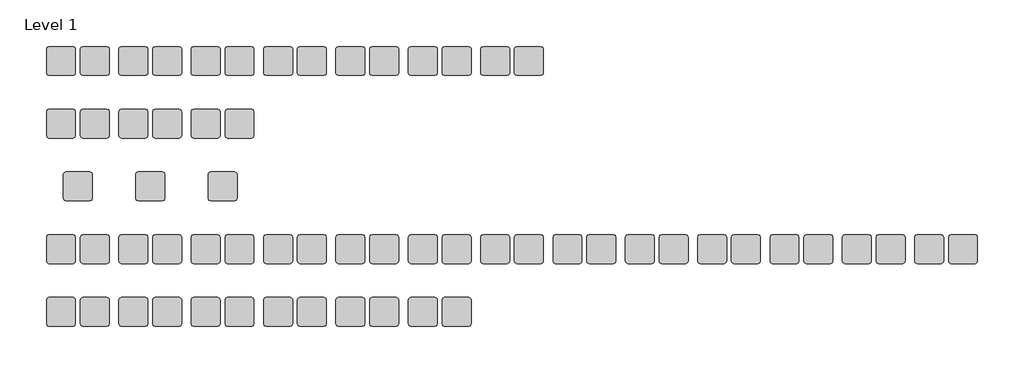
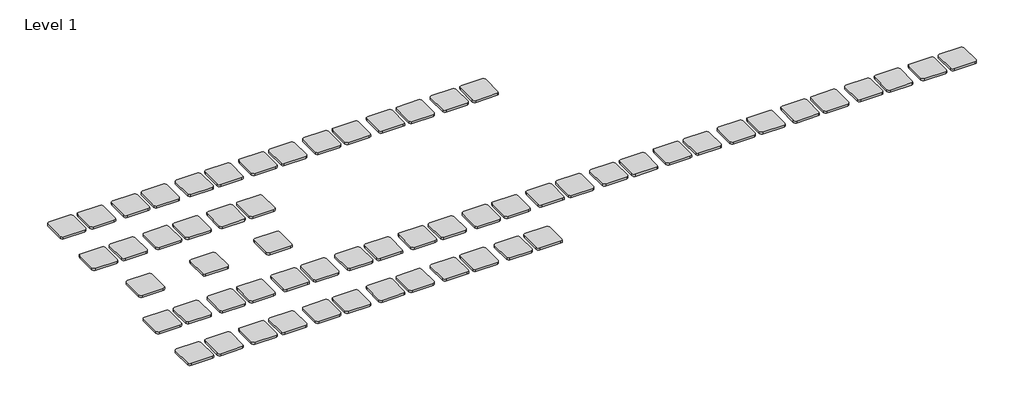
# One storey: 61 proxies.
"""IFC4 building model written with IfcOpenShell, lengths in millimetres."""

from ifc_helpers import new_model, si_unit, origin, place, context, project, spatial, transform, mapped, element, save
from components import finish_host1_finish_host_5be427ba, finish_host10_finish_host_ea2229f9, finish_host11_finish_host_68f65390, finish_host12_finish_host_615aa6c3, finish_host13_finish_host_e68ba729, finish_host14_finish_host_031a5872, finish_host15_finish_host_5658b52d, finish_host16_finish_host_4655bde0, finish_host17_finish_host_55fa66fa, finish_host18_finish_host_5ec7e49b, finish_host19_finish_host_4c318566, finish_host2_finish_host_1fd41e81, finish_host20_finish_host_48f22597, finish_host21_finish_host_1a1d4db5, finish_host22_finish_host_b5e77172, finish_host23_finish_host_aa634049, finish_host24_finish_host_a67df22e, finish_host25_finish_host_899a1b6d, finish_host26_finish_host_602a51fa, finish_host27_finish_host_7d3b422b, finish_host28_finish_host_be67d0bb, finish_host29_finish_host_b7dff220, finish_host3_finish_host_8b5ddf8c, finish_host30_finish_host_64383cae, finish_host31_finish_host_b5f629f3, finish_host32_finish_host_480f6b44, finish_host33_finish_host_6aa41282, finish_host34_finish_host_895b87cc, finish_host35_finish_host_c54f2c3e, finish_host36_finish_host_4d6229b8, finish_host37_finish_host_7318c595, finish_host38_finish_host_308a263b, finish_host39_finish_host_09242d3a, finish_host4_finish_host_29c3d501, finish_host40_finish_host_98985327, finish_host41_finish_host_d7d51719, finish_host42_finish_host_8a8fd854, finish_host43_finish_host_41cf50c6, finish_host44_finish_host_0fc50547, finish_host45_finish_host_f44af415, finish_host46_finish_host_f0582e82, finish_host47_finish_host_d2d6f0f1, finish_host48_finish_host_e7a341e6, finish_host49_finish_host_73e4c052, finish_host5_finish_host_da0f1f4f, finish_host50_finish_host_a668aa0e, finish_host51_finish_host_c17eafe4, finish_host52_finish_host_f7eaa4a8, finish_host53_finish_host_fe3a5eb9, finish_host54_finish_host_1c773aff, finish_host55_finish_host_c2976ace, finish_host56_finish_host_a154b918, finish_host57_finish_host_ed8a52d6, finish_host58_finish_host_a024fdb9, finish_host59_finish_host_d261e86d, finish_host6_finish_host_2f1395f0, finish_host60_finish_host_f87967e8, finish_host61_finish_host_1c5bda7f, finish_host7_finish_host_0db96256, finish_host8_finish_host_85bd6bc4, finish_host9_finish_host_b86020ca

model = new_model("IFC4")

# Units and contexts
model_context = context("Model", 3, world=origin())
ifc_project = project(units=[si_unit("LENGTHUNIT", "METRE", prefix="MILLI")], contexts=[model_context])

# Site, building, storey
site = spatial("IfcSite", under=ifc_project)
building = spatial("IfcBuilding", under=site)
storey = spatial("IfcBuildingStorey", under=building, Name="Level 1", Elevation=0.0)

# Proxies
placement = place(None, origin())
finish_host1_finish_host_shape = finish_host1_finish_host_5be427ba(model_context)
element("IfcBuildingElementProxy", 1, Name="Finish Host1 : Finish Host", ObjectType="Finish Host1 : Finish Host", at=placement, inside=storey, context=model_context, shape_type="MappedRepresentation", body=[
    mapped(finish_host1_finish_host_shape, transform((0.0, 0.0, 0.0), x_axis=(1.0, 0.0, 0.0), y_axis=(0.0, 1.0, 0.0), z_axis=(0.0, 0.0, 1.0))),
])
finish_host10_finish_host_shape = finish_host10_finish_host_ea2229f9(model_context)
element("IfcBuildingElementProxy", 2, Name="Finish Host10 : Finish Host", ObjectType="Finish Host10 : Finish Host", at=placement, inside=storey, context=model_context, shape_type="MappedRepresentation", body=[
    mapped(finish_host10_finish_host_shape, transform((0.0, 0.0, 0.0), x_axis=(1.0, 0.0, 0.0), y_axis=(0.0, 1.0, 0.0), z_axis=(0.0, 0.0, 1.0))),
])
finish_host11_finish_host_shape = finish_host11_finish_host_68f65390(model_context)
element("IfcBuildingElementProxy", 3, Name="Finish Host11 : Finish Host", ObjectType="Finish Host11 : Finish Host", at=placement, inside=storey, context=model_context, shape_type="MappedRepresentation", body=[
    mapped(finish_host11_finish_host_shape, transform((0.0, 0.0, 0.0), x_axis=(1.0, 0.0, 0.0), y_axis=(0.0, 1.0, 0.0), z_axis=(0.0, 0.0, 1.0))),
])
finish_host12_finish_host_shape = finish_host12_finish_host_615aa6c3(model_context)
element("IfcBuildingElementProxy", 4, Name="Finish Host12 : Finish Host", ObjectType="Finish Host12 : Finish Host", at=placement, inside=storey, context=model_context, shape_type="MappedRepresentation", body=[
    mapped(finish_host12_finish_host_shape, transform((0.0, 0.0, 0.0), x_axis=(1.0, 0.0, 0.0), y_axis=(0.0, 1.0, 0.0), z_axis=(0.0, 0.0, 1.0))),
])
finish_host13_finish_host_shape = finish_host13_finish_host_e68ba729(model_context)
element("IfcBuildingElementProxy", 5, Name="Finish Host13 : Finish Host", ObjectType="Finish Host13 : Finish Host", at=placement, inside=storey, context=model_context, shape_type="MappedRepresentation", body=[
    mapped(finish_host13_finish_host_shape, transform((0.0, 0.0, 0.0), x_axis=(1.0, 0.0, 0.0), y_axis=(0.0, 1.0, 0.0), z_axis=(0.0, 0.0, 1.0))),
])
finish_host14_finish_host_shape = finish_host14_finish_host_031a5872(model_context)
element("IfcBuildingElementProxy", 6, Name="Finish Host14 : Finish Host", ObjectType="Finish Host14 : Finish Host", at=placement, inside=storey, context=model_context, shape_type="MappedRepresentation", body=[
    mapped(finish_host14_finish_host_shape, transform((0.0, 0.0, 0.0), x_axis=(1.0, 0.0, 0.0), y_axis=(0.0, 1.0, 0.0), z_axis=(0.0, 0.0, 1.0))),
])
finish_host15_finish_host_shape = finish_host15_finish_host_5658b52d(model_context)
element("IfcBuildingElementProxy", 7, Name="Finish Host15 : Finish Host", ObjectType="Finish Host15 : Finish Host", at=placement, inside=storey, context=model_context, shape_type="MappedRepresentation", body=[
    mapped(finish_host15_finish_host_shape, transform((0.0, 0.0, 0.0), x_axis=(1.0, 0.0, 0.0), y_axis=(0.0, 1.0, 0.0), z_axis=(0.0, 0.0, 1.0))),
])
finish_host16_finish_host_shape = finish_host16_finish_host_4655bde0(model_context)
element("IfcBuildingElementProxy", 8, Name="Finish Host16 : Finish Host", ObjectType="Finish Host16 : Finish Host", at=placement, inside=storey, context=model_context, shape_type="MappedRepresentation", body=[
    mapped(finish_host16_finish_host_shape, transform((0.0, 0.0, 0.0), x_axis=(1.0, 0.0, 0.0), y_axis=(0.0, 1.0, 0.0), z_axis=(0.0, 0.0, 1.0))),
])
finish_host17_finish_host_shape = finish_host17_finish_host_55fa66fa(model_context)
element("IfcBuildingElementProxy", 9, Name="Finish Host17 : Finish Host", ObjectType="Finish Host17 : Finish Host", at=placement, inside=storey, context=model_context, shape_type="MappedRepresentation", body=[
    mapped(finish_host17_finish_host_shape, transform((0.0, 0.0, 0.0), x_axis=(1.0, 0.0, 0.0), y_axis=(0.0, 1.0, 0.0), z_axis=(0.0, 0.0, 1.0))),
])
finish_host18_finish_host_shape = finish_host18_finish_host_5ec7e49b(model_context)
element("IfcBuildingElementProxy", 10, Name="Finish Host18 : Finish Host", ObjectType="Finish Host18 : Finish Host", at=placement, inside=storey, context=model_context, shape_type="MappedRepresentation", body=[
    mapped(finish_host18_finish_host_shape, transform((0.0, 0.0, 0.0), x_axis=(1.0, 0.0, 0.0), y_axis=(0.0, 1.0, 0.0), z_axis=(0.0, 0.0, 1.0))),
])
finish_host19_finish_host_shape = finish_host19_finish_host_4c318566(model_context)
element("IfcBuildingElementProxy", 11, Name="Finish Host19 : Finish Host", ObjectType="Finish Host19 : Finish Host", at=placement, inside=storey, context=model_context, shape_type="MappedRepresentation", body=[
    mapped(finish_host19_finish_host_shape, transform((0.0, 0.0, 0.0), x_axis=(1.0, 0.0, 0.0), y_axis=(0.0, 1.0, 0.0), z_axis=(0.0, 0.0, 1.0))),
])
finish_host2_finish_host_shape = finish_host2_finish_host_1fd41e81(model_context)
element("IfcBuildingElementProxy", 12, Name="Finish Host2 : Finish Host", ObjectType="Finish Host2 : Finish Host", at=placement, inside=storey, context=model_context, shape_type="MappedRepresentation", body=[
    mapped(finish_host2_finish_host_shape, transform((0.0, 0.0, 0.0), x_axis=(1.0, 0.0, 0.0), y_axis=(0.0, 1.0, 0.0), z_axis=(0.0, 0.0, 1.0))),
])
finish_host20_finish_host_shape = finish_host20_finish_host_48f22597(model_context)
element("IfcBuildingElementProxy", 13, Name="Finish Host20 : Finish Host", ObjectType="Finish Host20 : Finish Host", at=placement, inside=storey, context=model_context, shape_type="MappedRepresentation", body=[
    mapped(finish_host20_finish_host_shape, transform((0.0, 0.0, 0.0), x_axis=(1.0, 0.0, 0.0), y_axis=(0.0, 1.0, 0.0), z_axis=(0.0, 0.0, 1.0))),
])
finish_host21_finish_host_shape = finish_host21_finish_host_1a1d4db5(model_context)
element("IfcBuildingElementProxy", 14, Name="Finish Host21 : Finish Host", ObjectType="Finish Host21 : Finish Host", at=placement, inside=storey, context=model_context, shape_type="MappedRepresentation", body=[
    mapped(finish_host21_finish_host_shape, transform((0.0, 0.0, 0.0), x_axis=(1.0, 0.0, 0.0), y_axis=(0.0, 1.0, 0.0), z_axis=(0.0, 0.0, 1.0))),
])
finish_host22_finish_host_shape = finish_host22_finish_host_b5e77172(model_context)
element("IfcBuildingElementProxy", 15, Name="Finish Host22 : Finish Host", ObjectType="Finish Host22 : Finish Host", at=placement, inside=storey, context=model_context, shape_type="MappedRepresentation", body=[
    mapped(finish_host22_finish_host_shape, transform((0.0, 0.0, 0.0), x_axis=(1.0, 0.0, 0.0), y_axis=(0.0, 1.0, 0.0), z_axis=(0.0, 0.0, 1.0))),
])
finish_host23_finish_host_shape = finish_host23_finish_host_aa634049(model_context)
element("IfcBuildingElementProxy", 16, Name="Finish Host23 : Finish Host", ObjectType="Finish Host23 : Finish Host", at=placement, inside=storey, context=model_context, shape_type="MappedRepresentation", body=[
    mapped(finish_host23_finish_host_shape, transform((0.0, 0.0, 0.0), x_axis=(1.0, 0.0, 0.0), y_axis=(0.0, 1.0, 0.0), z_axis=(0.0, 0.0, 1.0))),
])
finish_host24_finish_host_shape = finish_host24_finish_host_a67df22e(model_context)
element("IfcBuildingElementProxy", 17, Name="Finish Host24 : Finish Host", ObjectType="Finish Host24 : Finish Host", at=placement, inside=storey, context=model_context, shape_type="MappedRepresentation", body=[
    mapped(finish_host24_finish_host_shape, transform((0.0, 0.0, 0.0), x_axis=(1.0, 0.0, 0.0), y_axis=(0.0, 1.0, 0.0), z_axis=(0.0, 0.0, 1.0))),
])
finish_host25_finish_host_shape = finish_host25_finish_host_899a1b6d(model_context)
element("IfcBuildingElementProxy", 18, Name="Finish Host25 : Finish Host", ObjectType="Finish Host25 : Finish Host", at=placement, inside=storey, context=model_context, shape_type="MappedRepresentation", body=[
    mapped(finish_host25_finish_host_shape, transform((0.0, 0.0, 0.0), x_axis=(1.0, 0.0, 0.0), y_axis=(0.0, 1.0, 0.0), z_axis=(0.0, 0.0, 1.0))),
])
finish_host26_finish_host_shape = finish_host26_finish_host_602a51fa(model_context)
element("IfcBuildingElementProxy", 19, Name="Finish Host26 : Finish Host", ObjectType="Finish Host26 : Finish Host", at=placement, inside=storey, context=model_context, shape_type="MappedRepresentation", body=[
    mapped(finish_host26_finish_host_shape, transform((0.0, 0.0, 0.0), x_axis=(1.0, 0.0, 0.0), y_axis=(0.0, 1.0, 0.0), z_axis=(0.0, 0.0, 1.0))),
])
finish_host27_finish_host_shape = finish_host27_finish_host_7d3b422b(model_context)
element("IfcBuildingElementProxy", 20, Name="Finish Host27 : Finish Host", ObjectType="Finish Host27 : Finish Host", at=placement, inside=storey, context=model_context, shape_type="MappedRepresentation", body=[
    mapped(finish_host27_finish_host_shape, transform((0.0, 0.0, 0.0), x_axis=(1.0, 0.0, 0.0), y_axis=(0.0, 1.0, 0.0), z_axis=(0.0, 0.0, 1.0))),
])
finish_host28_finish_host_shape = finish_host28_finish_host_be67d0bb(model_context)
element("IfcBuildingElementProxy", 21, Name="Finish Host28 : Finish Host", ObjectType="Finish Host28 : Finish Host", at=placement, inside=storey, context=model_context, shape_type="MappedRepresentation", body=[
    mapped(finish_host28_finish_host_shape, transform((0.0, 0.0, 0.0), x_axis=(1.0, 0.0, 0.0), y_axis=(0.0, 1.0, 0.0), z_axis=(0.0, 0.0, 1.0))),
])
finish_host29_finish_host_shape = finish_host29_finish_host_b7dff220(model_context)
element("IfcBuildingElementProxy", 22, Name="Finish Host29 : Finish Host", ObjectType="Finish Host29 : Finish Host", at=placement, inside=storey, context=model_context, shape_type="MappedRepresentation", body=[
    mapped(finish_host29_finish_host_shape, transform((0.0, 0.0, 0.0), x_axis=(1.0, 0.0, 0.0), y_axis=(0.0, 1.0, 0.0), z_axis=(0.0, 0.0, 1.0))),
])
finish_host3_finish_host_shape = finish_host3_finish_host_8b5ddf8c(model_context)
element("IfcBuildingElementProxy", 23, Name="Finish Host3 : Finish Host", ObjectType="Finish Host3 : Finish Host", at=placement, inside=storey, context=model_context, shape_type="MappedRepresentation", body=[
    mapped(finish_host3_finish_host_shape, transform((0.0, 0.0, 0.0), x_axis=(1.0, 0.0, 0.0), y_axis=(0.0, 1.0, 0.0), z_axis=(0.0, 0.0, 1.0))),
])
finish_host30_finish_host_shape = finish_host30_finish_host_64383cae(model_context)
element("IfcBuildingElementProxy", 24, Name="Finish Host30 : Finish Host", ObjectType="Finish Host30 : Finish Host", at=placement, inside=storey, context=model_context, shape_type="MappedRepresentation", body=[
    mapped(finish_host30_finish_host_shape, transform((0.0, 0.0, 0.0), x_axis=(1.0, 0.0, 0.0), y_axis=(0.0, 1.0, 0.0), z_axis=(0.0, 0.0, 1.0))),
])
finish_host31_finish_host_shape = finish_host31_finish_host_b5f629f3(model_context)
element("IfcBuildingElementProxy", 25, Name="Finish Host31 : Finish Host", ObjectType="Finish Host31 : Finish Host", at=placement, inside=storey, context=model_context, shape_type="MappedRepresentation", body=[
    mapped(finish_host31_finish_host_shape, transform((0.0, 0.0, 0.0), x_axis=(1.0, 0.0, 0.0), y_axis=(0.0, 1.0, 0.0), z_axis=(0.0, 0.0, 1.0))),
])
finish_host32_finish_host_shape = finish_host32_finish_host_480f6b44(model_context)
element("IfcBuildingElementProxy", 26, Name="Finish Host32 : Finish Host", ObjectType="Finish Host32 : Finish Host", at=placement, inside=storey, context=model_context, shape_type="MappedRepresentation", body=[
    mapped(finish_host32_finish_host_shape, transform((0.0, 0.0, 0.0), x_axis=(1.0, 0.0, 0.0), y_axis=(0.0, 1.0, 0.0), z_axis=(0.0, 0.0, 1.0))),
])
finish_host33_finish_host_shape = finish_host33_finish_host_6aa41282(model_context)
element("IfcBuildingElementProxy", 27, Name="Finish Host33 : Finish Host", ObjectType="Finish Host33 : Finish Host", at=placement, inside=storey, context=model_context, shape_type="MappedRepresentation", body=[
    mapped(finish_host33_finish_host_shape, transform((0.0, 0.0, 0.0), x_axis=(1.0, 0.0, 0.0), y_axis=(0.0, 1.0, 0.0), z_axis=(0.0, 0.0, 1.0))),
])
finish_host34_finish_host_shape = finish_host34_finish_host_895b87cc(model_context)
element("IfcBuildingElementProxy", 28, Name="Finish Host34 : Finish Host", ObjectType="Finish Host34 : Finish Host", at=placement, inside=storey, context=model_context, shape_type="MappedRepresentation", body=[
    mapped(finish_host34_finish_host_shape, transform((0.0, 0.0, 0.0), x_axis=(1.0, 0.0, 0.0), y_axis=(0.0, 1.0, 0.0), z_axis=(0.0, 0.0, 1.0))),
])
finish_host35_finish_host_shape = finish_host35_finish_host_c54f2c3e(model_context)
element("IfcBuildingElementProxy", 29, Name="Finish Host35 : Finish Host", ObjectType="Finish Host35 : Finish Host", at=placement, inside=storey, context=model_context, shape_type="MappedRepresentation", body=[
    mapped(finish_host35_finish_host_shape, transform((0.0, 0.0, 0.0), x_axis=(1.0, 0.0, 0.0), y_axis=(0.0, 1.0, 0.0), z_axis=(0.0, 0.0, 1.0))),
])
finish_host36_finish_host_shape = finish_host36_finish_host_4d6229b8(model_context)
element("IfcBuildingElementProxy", 30, Name="Finish Host36 : Finish Host", ObjectType="Finish Host36 : Finish Host", at=placement, inside=storey, context=model_context, shape_type="MappedRepresentation", body=[
    mapped(finish_host36_finish_host_shape, transform((0.0, 0.0, 0.0), x_axis=(1.0, 0.0, 0.0), y_axis=(0.0, 1.0, 0.0), z_axis=(0.0, 0.0, 1.0))),
])
finish_host37_finish_host_shape = finish_host37_finish_host_7318c595(model_context)
element("IfcBuildingElementProxy", 31, Name="Finish Host37 : Finish Host", ObjectType="Finish Host37 : Finish Host", at=placement, inside=storey, context=model_context, shape_type="MappedRepresentation", body=[
    mapped(finish_host37_finish_host_shape, transform((0.0, 0.0, 0.0), x_axis=(1.0, 0.0, 0.0), y_axis=(0.0, 1.0, 0.0), z_axis=(0.0, 0.0, 1.0))),
])
finish_host38_finish_host_shape = finish_host38_finish_host_308a263b(model_context)
element("IfcBuildingElementProxy", 32, Name="Finish Host38 : Finish Host", ObjectType="Finish Host38 : Finish Host", at=placement, inside=storey, context=model_context, shape_type="MappedRepresentation", body=[
    mapped(finish_host38_finish_host_shape, transform((0.0, 0.0, 0.0), x_axis=(1.0, 0.0, 0.0), y_axis=(0.0, 1.0, 0.0), z_axis=(0.0, 0.0, 1.0))),
])
finish_host39_finish_host_shape = finish_host39_finish_host_09242d3a(model_context)
element("IfcBuildingElementProxy", 33, Name="Finish Host39 : Finish Host", ObjectType="Finish Host39 : Finish Host", at=placement, inside=storey, context=model_context, shape_type="MappedRepresentation", body=[
    mapped(finish_host39_finish_host_shape, transform((0.0, 0.0, 0.0), x_axis=(1.0, 0.0, 0.0), y_axis=(0.0, 1.0, 0.0), z_axis=(0.0, 0.0, 1.0))),
])
finish_host4_finish_host_shape = finish_host4_finish_host_29c3d501(model_context)
element("IfcBuildingElementProxy", 34, Name="Finish Host4 : Finish Host", ObjectType="Finish Host4 : Finish Host", at=placement, inside=storey, context=model_context, shape_type="MappedRepresentation", body=[
    mapped(finish_host4_finish_host_shape, transform((0.0, 0.0, 0.0), x_axis=(1.0, 0.0, 0.0), y_axis=(0.0, 1.0, 0.0), z_axis=(0.0, 0.0, 1.0))),
])
finish_host40_finish_host_shape = finish_host40_finish_host_98985327(model_context)
element("IfcBuildingElementProxy", 35, Name="Finish Host40 : Finish Host", ObjectType="Finish Host40 : Finish Host", at=placement, inside=storey, context=model_context, shape_type="MappedRepresentation", body=[
    mapped(finish_host40_finish_host_shape, transform((0.0, 0.0, 0.0), x_axis=(1.0, 0.0, 0.0), y_axis=(0.0, 1.0, 0.0), z_axis=(0.0, 0.0, 1.0))),
])
finish_host41_finish_host_shape = finish_host41_finish_host_d7d51719(model_context)
element("IfcBuildingElementProxy", 36, Name="Finish Host41 : Finish Host", ObjectType="Finish Host41 : Finish Host", at=placement, inside=storey, context=model_context, shape_type="MappedRepresentation", body=[
    mapped(finish_host41_finish_host_shape, transform((0.0, 0.0, 0.0), x_axis=(1.0, 0.0, 0.0), y_axis=(0.0, 1.0, 0.0), z_axis=(0.0, 0.0, 1.0))),
])
finish_host42_finish_host_shape = finish_host42_finish_host_8a8fd854(model_context)
element("IfcBuildingElementProxy", 37, Name="Finish Host42 : Finish Host", ObjectType="Finish Host42 : Finish Host", at=placement, inside=storey, context=model_context, shape_type="MappedRepresentation", body=[
    mapped(finish_host42_finish_host_shape, transform((0.0, 0.0, 0.0), x_axis=(1.0, 0.0, 0.0), y_axis=(0.0, 1.0, 0.0), z_axis=(0.0, 0.0, 1.0))),
])
finish_host43_finish_host_shape = finish_host43_finish_host_41cf50c6(model_context)
element("IfcBuildingElementProxy", 38, Name="Finish Host43 : Finish Host", ObjectType="Finish Host43 : Finish Host", at=placement, inside=storey, context=model_context, shape_type="MappedRepresentation", body=[
    mapped(finish_host43_finish_host_shape, transform((0.0, 0.0, 0.0), x_axis=(1.0, 0.0, 0.0), y_axis=(0.0, 1.0, 0.0), z_axis=(0.0, 0.0, 1.0))),
])
finish_host44_finish_host_shape = finish_host44_finish_host_0fc50547(model_context)
element("IfcBuildingElementProxy", 39, Name="Finish Host44 : Finish Host", ObjectType="Finish Host44 : Finish Host", at=placement, inside=storey, context=model_context, shape_type="MappedRepresentation", body=[
    mapped(finish_host44_finish_host_shape, transform((0.0, 0.0, 0.0), x_axis=(1.0, 0.0, 0.0), y_axis=(0.0, 1.0, 0.0), z_axis=(0.0, 0.0, 1.0))),
])
finish_host45_finish_host_shape = finish_host45_finish_host_f44af415(model_context)
element("IfcBuildingElementProxy", 40, Name="Finish Host45 : Finish Host", ObjectType="Finish Host45 : Finish Host", at=placement, inside=storey, context=model_context, shape_type="MappedRepresentation", body=[
    mapped(finish_host45_finish_host_shape, transform((0.0, 0.0, 0.0), x_axis=(1.0, 0.0, 0.0), y_axis=(0.0, 1.0, 0.0), z_axis=(0.0, 0.0, 1.0))),
])
finish_host46_finish_host_shape = finish_host46_finish_host_f0582e82(model_context)
element("IfcBuildingElementProxy", 41, Name="Finish Host46 : Finish Host", ObjectType="Finish Host46 : Finish Host", at=placement, inside=storey, context=model_context, shape_type="MappedRepresentation", body=[
    mapped(finish_host46_finish_host_shape, transform((0.0, 0.0, 0.0), x_axis=(1.0, 0.0, 0.0), y_axis=(0.0, 1.0, 0.0), z_axis=(0.0, 0.0, 1.0))),
])
finish_host47_finish_host_shape = finish_host47_finish_host_d2d6f0f1(model_context)
element("IfcBuildingElementProxy", 42, Name="Finish Host47 : Finish Host", ObjectType="Finish Host47 : Finish Host", at=placement, inside=storey, context=model_context, shape_type="MappedRepresentation", body=[
    mapped(finish_host47_finish_host_shape, transform((0.0, 0.0, 0.0), x_axis=(1.0, 0.0, 0.0), y_axis=(0.0, 1.0, 0.0), z_axis=(0.0, 0.0, 1.0))),
])
finish_host48_finish_host_shape = finish_host48_finish_host_e7a341e6(model_context)
element("IfcBuildingElementProxy", 43, Name="Finish Host48 : Finish Host", ObjectType="Finish Host48 : Finish Host", at=placement, inside=storey, context=model_context, shape_type="MappedRepresentation", body=[
    mapped(finish_host48_finish_host_shape, transform((0.0, 0.0, 0.0), x_axis=(1.0, 0.0, 0.0), y_axis=(0.0, 1.0, 0.0), z_axis=(0.0, 0.0, 1.0))),
])
finish_host49_finish_host_shape = finish_host49_finish_host_73e4c052(model_context)
element("IfcBuildingElementProxy", 44, Name="Finish Host49 : Finish Host", ObjectType="Finish Host49 : Finish Host", at=placement, inside=storey, context=model_context, shape_type="MappedRepresentation", body=[
    mapped(finish_host49_finish_host_shape, transform((0.0, 0.0, 0.0), x_axis=(1.0, 0.0, 0.0), y_axis=(0.0, 1.0, 0.0), z_axis=(0.0, 0.0, 1.0))),
])
finish_host5_finish_host_shape = finish_host5_finish_host_da0f1f4f(model_context)
element("IfcBuildingElementProxy", 45, Name="Finish Host5 : Finish Host", ObjectType="Finish Host5 : Finish Host", at=placement, inside=storey, context=model_context, shape_type="MappedRepresentation", body=[
    mapped(finish_host5_finish_host_shape, transform((0.0, 0.0, 0.0), x_axis=(1.0, 0.0, 0.0), y_axis=(0.0, 1.0, 0.0), z_axis=(0.0, 0.0, 1.0))),
])
finish_host50_finish_host_shape = finish_host50_finish_host_a668aa0e(model_context)
element("IfcBuildingElementProxy", 46, Name="Finish Host50 : Finish Host", ObjectType="Finish Host50 : Finish Host", at=placement, inside=storey, context=model_context, shape_type="MappedRepresentation", body=[
    mapped(finish_host50_finish_host_shape, transform((0.0, 0.0, 0.0), x_axis=(1.0, 0.0, 0.0), y_axis=(0.0, 1.0, 0.0), z_axis=(0.0, 0.0, 1.0))),
])
finish_host51_finish_host_shape = finish_host51_finish_host_c17eafe4(model_context)
element("IfcBuildingElementProxy", 47, Name="Finish Host51 : Finish Host", ObjectType="Finish Host51 : Finish Host", at=placement, inside=storey, context=model_context, shape_type="MappedRepresentation", body=[
    mapped(finish_host51_finish_host_shape, transform((0.0, 0.0, 0.0), x_axis=(1.0, 0.0, 0.0), y_axis=(0.0, 1.0, 0.0), z_axis=(0.0, 0.0, 1.0))),
])
finish_host52_finish_host_shape = finish_host52_finish_host_f7eaa4a8(model_context)
element("IfcBuildingElementProxy", 48, Name="Finish Host52 : Finish Host", ObjectType="Finish Host52 : Finish Host", at=placement, inside=storey, context=model_context, shape_type="MappedRepresentation", body=[
    mapped(finish_host52_finish_host_shape, transform((0.0, 0.0, 0.0), x_axis=(1.0, 0.0, 0.0), y_axis=(0.0, 1.0, 0.0), z_axis=(0.0, 0.0, 1.0))),
])
finish_host53_finish_host_shape = finish_host53_finish_host_fe3a5eb9(model_context)
element("IfcBuildingElementProxy", 49, Name="Finish Host53 : Finish Host", ObjectType="Finish Host53 : Finish Host", at=placement, inside=storey, context=model_context, shape_type="MappedRepresentation", body=[
    mapped(finish_host53_finish_host_shape, transform((0.0, 0.0, 0.0), x_axis=(1.0, 0.0, 0.0), y_axis=(0.0, 1.0, 0.0), z_axis=(0.0, 0.0, 1.0))),
])
finish_host54_finish_host_shape = finish_host54_finish_host_1c773aff(model_context)
element("IfcBuildingElementProxy", 50, Name="Finish Host54 : Finish Host", ObjectType="Finish Host54 : Finish Host", at=placement, inside=storey, context=model_context, shape_type="MappedRepresentation", body=[
    mapped(finish_host54_finish_host_shape, transform((0.0, 0.0, 0.0), x_axis=(1.0, 0.0, 0.0), y_axis=(0.0, 1.0, 0.0), z_axis=(0.0, 0.0, 1.0))),
])
finish_host55_finish_host_shape = finish_host55_finish_host_c2976ace(model_context)
element("IfcBuildingElementProxy", 51, Name="Finish Host55 : Finish Host", ObjectType="Finish Host55 : Finish Host", at=placement, inside=storey, context=model_context, shape_type="MappedRepresentation", body=[
    mapped(finish_host55_finish_host_shape, transform((0.0, 0.0, 0.0), x_axis=(1.0, 0.0, 0.0), y_axis=(0.0, 1.0, 0.0), z_axis=(0.0, 0.0, 1.0))),
])
finish_host56_finish_host_shape = finish_host56_finish_host_a154b918(model_context)
element("IfcBuildingElementProxy", 52, Name="Finish Host56 : Finish Host", ObjectType="Finish Host56 : Finish Host", at=placement, inside=storey, context=model_context, shape_type="MappedRepresentation", body=[
    mapped(finish_host56_finish_host_shape, transform((0.0, 0.0, 0.0), x_axis=(1.0, 0.0, 0.0), y_axis=(0.0, 1.0, 0.0), z_axis=(0.0, 0.0, 1.0))),
])
finish_host57_finish_host_shape = finish_host57_finish_host_ed8a52d6(model_context)
element("IfcBuildingElementProxy", 53, Name="Finish Host57 : Finish Host", ObjectType="Finish Host57 : Finish Host", at=placement, inside=storey, context=model_context, shape_type="MappedRepresentation", body=[
    mapped(finish_host57_finish_host_shape, transform((0.0, 0.0, 0.0), x_axis=(1.0, 0.0, 0.0), y_axis=(0.0, 1.0, 0.0), z_axis=(0.0, 0.0, 1.0))),
])
finish_host58_finish_host_shape = finish_host58_finish_host_a024fdb9(model_context)
element("IfcBuildingElementProxy", 54, Name="Finish Host58 : Finish Host", ObjectType="Finish Host58 : Finish Host", at=placement, inside=storey, context=model_context, shape_type="MappedRepresentation", body=[
    mapped(finish_host58_finish_host_shape, transform((0.0, 0.0, 0.0), x_axis=(1.0, 0.0, 0.0), y_axis=(0.0, 1.0, 0.0), z_axis=(0.0, 0.0, 1.0))),
])
finish_host59_finish_host_shape = finish_host59_finish_host_d261e86d(model_context)
element("IfcBuildingElementProxy", 55, Name="Finish Host59 : Finish Host", ObjectType="Finish Host59 : Finish Host", at=placement, inside=storey, context=model_context, shape_type="MappedRepresentation", body=[
    mapped(finish_host59_finish_host_shape, transform((0.0, 0.0, 0.0), x_axis=(1.0, 0.0, 0.0), y_axis=(0.0, 1.0, 0.0), z_axis=(0.0, 0.0, 1.0))),
])
finish_host6_finish_host_shape = finish_host6_finish_host_2f1395f0(model_context)
element("IfcBuildingElementProxy", 56, Name="Finish Host6 : Finish Host", ObjectType="Finish Host6 : Finish Host", at=placement, inside=storey, context=model_context, shape_type="MappedRepresentation", body=[
    mapped(finish_host6_finish_host_shape, transform((0.0, 0.0, 0.0), x_axis=(1.0, 0.0, 0.0), y_axis=(0.0, 1.0, 0.0), z_axis=(0.0, 0.0, 1.0))),
])
finish_host60_finish_host_shape = finish_host60_finish_host_f87967e8(model_context)
element("IfcBuildingElementProxy", 57, Name="Finish Host60 : Finish Host", ObjectType="Finish Host60 : Finish Host", at=placement, inside=storey, context=model_context, shape_type="MappedRepresentation", body=[
    mapped(finish_host60_finish_host_shape, transform((0.0, 0.0, 0.0), x_axis=(1.0, 0.0, 0.0), y_axis=(0.0, 1.0, 0.0), z_axis=(0.0, 0.0, 1.0))),
])
finish_host61_finish_host_shape = finish_host61_finish_host_1c5bda7f(model_context)
element("IfcBuildingElementProxy", 58, Name="Finish Host61 : Finish Host", ObjectType="Finish Host61 : Finish Host", at=placement, inside=storey, context=model_context, shape_type="MappedRepresentation", body=[
    mapped(finish_host61_finish_host_shape, transform((0.0, 0.0, 0.0), x_axis=(1.0, 0.0, 0.0), y_axis=(0.0, 1.0, 0.0), z_axis=(0.0, 0.0, 1.0))),
])
finish_host7_finish_host_shape = finish_host7_finish_host_0db96256(model_context)
element("IfcBuildingElementProxy", 59, Name="Finish Host7 : Finish Host", ObjectType="Finish Host7 : Finish Host", at=placement, inside=storey, context=model_context, shape_type="MappedRepresentation", body=[
    mapped(finish_host7_finish_host_shape, transform((0.0, 0.0, 0.0), x_axis=(1.0, 0.0, 0.0), y_axis=(0.0, 1.0, 0.0), z_axis=(0.0, 0.0, 1.0))),
])
finish_host8_finish_host_shape = finish_host8_finish_host_85bd6bc4(model_context)
element("IfcBuildingElementProxy", 60, Name="Finish Host8 : Finish Host", ObjectType="Finish Host8 : Finish Host", at=placement, inside=storey, context=model_context, shape_type="MappedRepresentation", body=[
    mapped(finish_host8_finish_host_shape, transform((0.0, 0.0, 0.0), x_axis=(1.0, 0.0, 0.0), y_axis=(0.0, 1.0, 0.0), z_axis=(0.0, 0.0, 1.0))),
])
finish_host9_finish_host_shape = finish_host9_finish_host_b86020ca(model_context)
element("IfcBuildingElementProxy", 61, Name="Finish Host9 : Finish Host", ObjectType="Finish Host9 : Finish Host", at=placement, inside=storey, context=model_context, shape_type="MappedRepresentation", body=[
    mapped(finish_host9_finish_host_shape, transform((0.0, 0.0, 0.0), x_axis=(1.0, 0.0, 0.0), y_axis=(0.0, 1.0, 0.0), z_axis=(0.0, 0.0, 1.0))),
])

save(model, "model.ifc")
